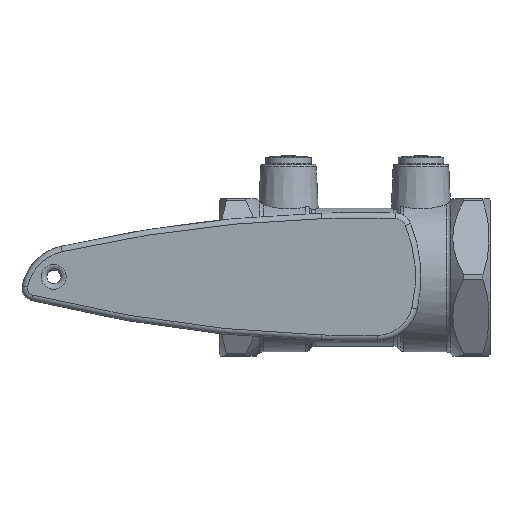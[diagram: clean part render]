
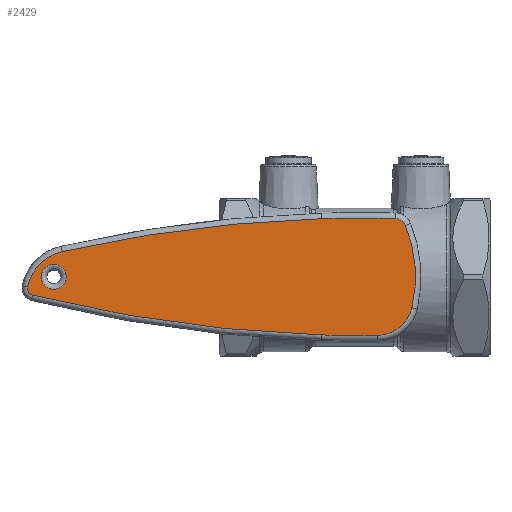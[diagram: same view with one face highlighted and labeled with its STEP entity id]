
A CAD part, top view. The second image highlights one B-rep face of the part: STEP entity #2429.
In plain terms, the highlighted planar face has unit normal (0, 0, 1).
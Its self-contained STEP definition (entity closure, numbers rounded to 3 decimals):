
#71=FACE_BOUND('',#425,.T.);
#126=PLANE('',#2744);
#280=FACE_OUTER_BOUND('',#424,.T.);
#424=EDGE_LOOP('',(#2094,#2095,#2096,#2097,#2098,#2099,#2100,#2101,#2102));
#425=EDGE_LOOP('',(#2103));
#612=CIRCLE('',#2741,4.5);
#615=CIRCLE('',#2745,495.754);
#616=CIRCLE('',#2746,12.99);
#617=CIRCLE('',#2747,48.994);
#618=CIRCLE('',#2748,3.998);
#619=CIRCLE('',#2749,495.754);
#620=CIRCLE('',#2750,495.909);
#621=CIRCLE('',#2751,16.56);
#622=CIRCLE('',#2752,2.501);
#623=CIRCLE('',#2753,495.863);
#1088=VERTEX_POINT('',#4508);
#1090=VERTEX_POINT('',#4514);
#1091=VERTEX_POINT('',#4515);
#1092=VERTEX_POINT('',#4517);
#1093=VERTEX_POINT('',#4519);
#1094=VERTEX_POINT('',#4521);
#1095=VERTEX_POINT('',#4523);
#1096=VERTEX_POINT('',#4525);
#1097=VERTEX_POINT('',#4527);
#1098=VERTEX_POINT('',#4529);
#1435=EDGE_CURVE('',#1088,#1088,#612,.T.);
#1438=EDGE_CURVE('',#1090,#1091,#615,.T.);
#1439=EDGE_CURVE('',#1092,#1090,#616,.T.);
#1440=EDGE_CURVE('',#1093,#1092,#617,.T.);
#1441=EDGE_CURVE('',#1094,#1093,#618,.T.);
#1442=EDGE_CURVE('',#1095,#1094,#619,.T.);
#1443=EDGE_CURVE('',#1096,#1095,#620,.T.);
#1444=EDGE_CURVE('',#1097,#1096,#621,.T.);
#1445=EDGE_CURVE('',#1098,#1097,#622,.T.);
#1446=EDGE_CURVE('',#1091,#1098,#623,.T.);
#2094=ORIENTED_EDGE('',*,*,#1438,.F.);
#2095=ORIENTED_EDGE('',*,*,#1439,.F.);
#2096=ORIENTED_EDGE('',*,*,#1440,.F.);
#2097=ORIENTED_EDGE('',*,*,#1441,.F.);
#2098=ORIENTED_EDGE('',*,*,#1442,.F.);
#2099=ORIENTED_EDGE('',*,*,#1443,.F.);
#2100=ORIENTED_EDGE('',*,*,#1444,.F.);
#2101=ORIENTED_EDGE('',*,*,#1445,.F.);
#2102=ORIENTED_EDGE('',*,*,#1446,.F.);
#2103=ORIENTED_EDGE('',*,*,#1435,.F.);
#2429=ADVANCED_FACE('',(#280,#71),#126,.T.);
#2741=AXIS2_PLACEMENT_3D('',#4509,#3395,#3396);
#2744=AXIS2_PLACEMENT_3D('',#4513,#3401,#3402);
#2745=AXIS2_PLACEMENT_3D('',#4516,#3403,#3404);
#2746=AXIS2_PLACEMENT_3D('',#4518,#3405,#3406);
#2747=AXIS2_PLACEMENT_3D('',#4520,#3407,#3408);
#2748=AXIS2_PLACEMENT_3D('',#4522,#3409,#3410);
#2749=AXIS2_PLACEMENT_3D('',#4524,#3411,#3412);
#2750=AXIS2_PLACEMENT_3D('',#4526,#3413,#3414);
#2751=AXIS2_PLACEMENT_3D('',#4528,#3415,#3416);
#2752=AXIS2_PLACEMENT_3D('',#4530,#3417,#3418);
#2753=AXIS2_PLACEMENT_3D('',#4531,#3419,#3420);
#3395=DIRECTION('center_axis',(0.,0.,1.));
#3396=DIRECTION('ref_axis',(-1.,0.,0.));
#3401=DIRECTION('center_axis',(0.,0.,1.));
#3402=DIRECTION('ref_axis',(1.,0.,0.));
#3403=DIRECTION('center_axis',(0.,0.,-1.));
#3404=DIRECTION('ref_axis',(-0.008,-1.,0.));
#3405=DIRECTION('center_axis',(0.,0.,-1.));
#3406=DIRECTION('ref_axis',(0.626,-0.78,0.));
#3407=DIRECTION('center_axis',(0.,0.,-1.));
#3408=DIRECTION('ref_axis',(0.997,0.08,0.));
#3409=DIRECTION('center_axis',(0.,0.,-1.));
#3410=DIRECTION('ref_axis',(0.567,0.823,0.));
#3411=DIRECTION('center_axis',(0.,0.,-1.));
#3412=DIRECTION('ref_axis',(-0.002,1.,0.));
#3413=DIRECTION('center_axis',(0.,0.,-1.));
#3414=DIRECTION('ref_axis',(-0.126,0.992,0.));
#3415=DIRECTION('center_axis',(0.,0.,-1.));
#3416=DIRECTION('ref_axis',(-0.714,0.7,0.));
#3417=DIRECTION('center_axis',(0.,0.,-1.));
#3418=DIRECTION('ref_axis',(-0.846,-0.533,0.));
#3419=DIRECTION('center_axis',(0.,0.,-1.));
#3420=DIRECTION('ref_axis',(-0.137,-0.991,0.));
#4508=CARTESIAN_POINT('',(-104.5,0.,111.85));
#4509=CARTESIAN_POINT('Origin',(-109.,0.,
111.85));
#4513=CARTESIAN_POINT('Origin',(-43.62,0.026,111.85));
#4514=CARTESIAN_POINT('',(8.211,-21.207,111.85));
#4515=CARTESIAN_POINT('',(-11.945,-21.044,111.85));
#4516=CARTESIAN_POINT('Origin',(2.142,474.51,111.85));
#4517=CARTESIAN_POINT('',(20.701,-11.182,111.85));
#4518=CARTESIAN_POINT('Origin',(8.054,-8.219,111.85));
#4519=CARTESIAN_POINT('',(18.323,18.607,111.85));
#4520=CARTESIAN_POINT('Origin',(-27.,0.,
111.85));
#4521=CARTESIAN_POINT('',(14.727,21.085,111.85));
#4522=CARTESIAN_POINT('Origin',(14.625,17.088,111.85));
#4523=CARTESIAN_POINT('',(-11.945,21.044,111.85));
#4524=CARTESIAN_POINT('Origin',(2.142,-474.51,111.85));
#4525=CARTESIAN_POINT('',(-105.873,9.151,111.85));
#4526=CARTESIAN_POINT('Origin',(3.103,-474.637,111.85));
#4527=CARTESIAN_POINT('',(-118.453,-3.675,111.85));
#4528=CARTESIAN_POINT('Origin',(-102.231,-7.004,111.85));
#4529=CARTESIAN_POINT('',(-116.606,-6.606,111.85));
#4530=CARTESIAN_POINT('Origin',(-116.003,-4.178,111.85));
#4531=CARTESIAN_POINT('Origin',(3.102,474.591,111.85));
